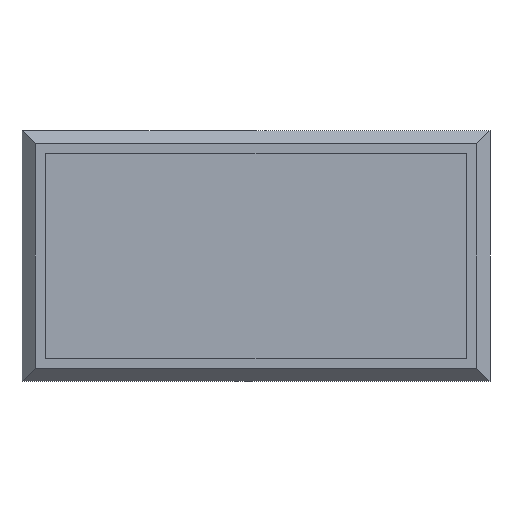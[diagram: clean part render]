
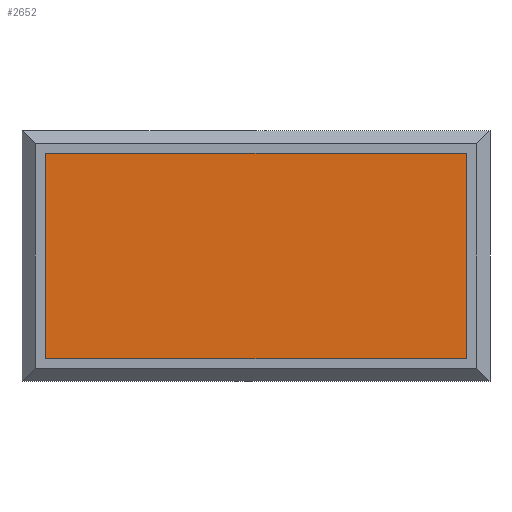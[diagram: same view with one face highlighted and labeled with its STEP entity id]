
A CAD part, front view. The second image highlights one B-rep face of the part: STEP entity #2652.
In plain terms, the highlighted planar face has unit normal (0, -1, 0).
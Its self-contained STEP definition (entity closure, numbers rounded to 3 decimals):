
#76 = PLANE ( 'NONE',  #676 ) ;
#187 = ORIENTED_EDGE ( 'NONE', *, *, #377, .T. ) ;
#200 = VERTEX_POINT ( 'NONE', #407 ) ;
#377 = EDGE_CURVE ( 'NONE', #2239, #200, #440, .T. ) ;
#407 = CARTESIAN_POINT ( 'NONE',  ( -56.15, 0.9, -27.5 ) ) ;
#440 = LINE ( 'NONE', #2020, #2911 ) ;
#463 = EDGE_CURVE ( 'NONE', #1207, #2239, #2594, .T. ) ;
#474 = VECTOR ( 'NONE', #1075, 1000. ) ;
#478 = EDGE_CURVE ( 'NONE', #712, #1207, #1424, .T. ) ;
#506 = EDGE_CURVE ( 'NONE', #200, #712, #590, .T. ) ;
#590 = LINE ( 'NONE', #1109, #474 ) ;
#602 = ORIENTED_EDGE ( 'NONE', *, *, #463, .T. ) ;
#676 = AXIS2_PLACEMENT_3D ( 'NONE', #2132, #1658, #1679 ) ;
#712 = VERTEX_POINT ( 'NONE', #2984 ) ;
#836 = ORIENTED_EDGE ( 'NONE', *, *, #478, .T. ) ;
#992 = CARTESIAN_POINT ( 'NONE',  ( 56.15, 0.9, 27.5 ) ) ;
#1075 = DIRECTION ( 'NONE',  ( 1., 0., 0. ) ) ;
#1109 = CARTESIAN_POINT ( 'NONE',  ( -56.15, 0.9, -27.5 ) ) ;
#1113 = EDGE_LOOP ( 'NONE', ( #187, #2872, #836, #602 ) ) ;
#1207 = VERTEX_POINT ( 'NONE', #992 ) ;
#1424 = LINE ( 'NONE', #1452, #2130 ) ;
#1452 = CARTESIAN_POINT ( 'NONE',  ( 56.15, 0.9, 27.5 ) ) ;
#1465 = DIRECTION ( 'NONE',  ( 0., 0., 1. ) ) ;
#1525 = CARTESIAN_POINT ( 'NONE',  ( -56.15, 0.9, 27.5 ) ) ;
#1545 = DIRECTION ( 'NONE',  ( -1., 0., 0. ) ) ;
#1611 = CARTESIAN_POINT ( 'NONE',  ( -56.15, 0.9, 27.5 ) ) ;
#1658 = DIRECTION ( 'NONE',  ( 0., -1., 0. ) ) ;
#1679 = DIRECTION ( 'NONE',  ( 0., 0., -1. ) ) ;
#1883 = DIRECTION ( 'NONE',  ( 0., 0., -1. ) ) ;
#2020 = CARTESIAN_POINT ( 'NONE',  ( -56.15, 0.9, 27.5 ) ) ;
#2130 = VECTOR ( 'NONE', #1465, 1000. ) ;
#2132 = CARTESIAN_POINT ( 'NONE',  ( 0., 0.9, 0. ) ) ;
#2239 = VERTEX_POINT ( 'NONE', #1611 ) ;
#2274 = VECTOR ( 'NONE', #1545, 1000. ) ;
#2594 = LINE ( 'NONE', #1525, #2274 ) ;
#2608 = FACE_OUTER_BOUND ( 'NONE', #1113, .T. ) ;
#2652 = ADVANCED_FACE ( 'NONE', ( #2608 ), #76, .T. ) ;
#2872 = ORIENTED_EDGE ( 'NONE', *, *, #506, .T. ) ;
#2911 = VECTOR ( 'NONE', #1883, 1000. ) ;
#2984 = CARTESIAN_POINT ( 'NONE',  ( 56.15, 0.9, -27.5 ) ) ;
